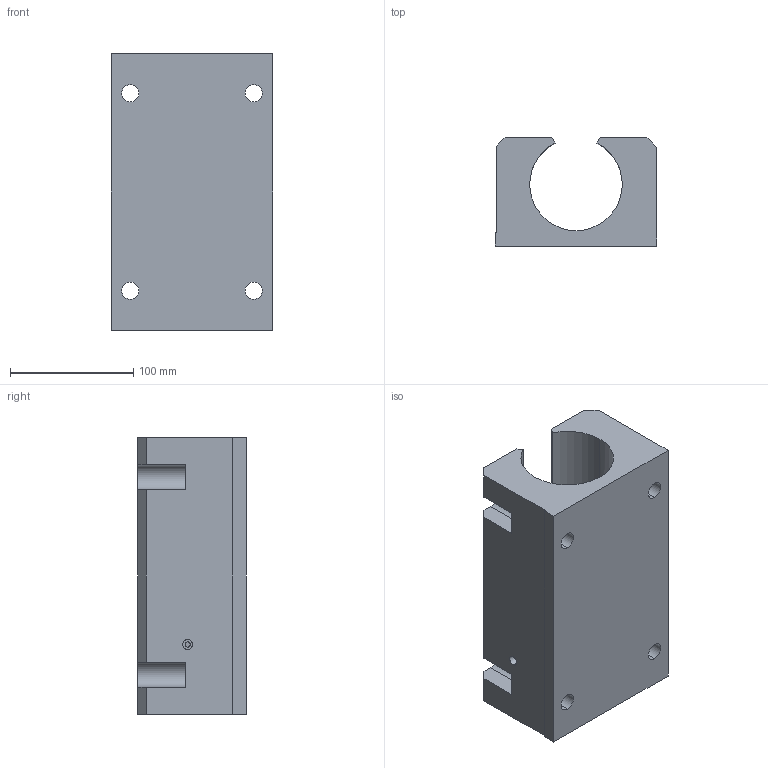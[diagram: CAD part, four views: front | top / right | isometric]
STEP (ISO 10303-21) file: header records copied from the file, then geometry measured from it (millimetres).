
FILE_DESCRIPTION (( 'STEP AP214' ), '1' );
FILE_NAME ('KTGO87-I-50.step', '2020-03-04T13:32:50', ( '' ), ( '' ), 'SwSTEP 2.0', 'SolidWorks 2019', '' );
FILE_SCHEMA (( 'AUTOMOTIVE_DESIGN' ));
Length unit declared in the file: millimetre
Products named in the file (1): KTGO87-I-50
Bounding box: 131 x 88 x 224 mm (x, y, z)
Volume: 1443639.4 mm3; surface area: 164202.5 mm2
Topology: 1 solids, 1 shells, 60 faces, 164 edges, 108 vertices
Faces by surface type: plane 31, cylinder 27, cone 2
Entity records: 2262 total; most frequent: CARTESIAN_POINT 509, DIRECTION 328, ORIENTED_EDGE 328, EDGE_CURVE 164, VECTOR 110, LINE 110, AXIS2_PLACEMENT_3D 109, VERTEX_POINT 108
